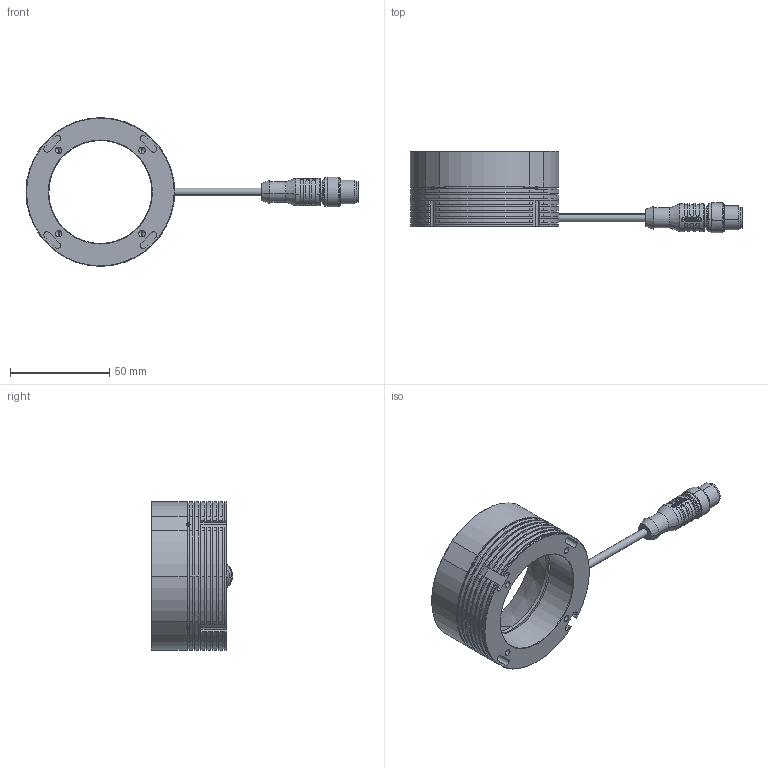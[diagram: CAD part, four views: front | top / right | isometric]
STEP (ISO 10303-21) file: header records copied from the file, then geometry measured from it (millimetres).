
FILE_DESCRIPTION (( 'STEP AP214' ), '1' );
FILE_NAME ('RM-75.STEP', '2017-05-26T15:07:02', ( '' ), ( '' ), 'SwSTEP 2.0', 'SolidWorks 2017', '' );
FILE_SCHEMA (( 'AUTOMOTIVE_DESIGN' ));
Length unit declared in the file: millimetre
Products named in the file (10): RM-75 Housing; PCB-00573-01; CABLE; PCB-00572-01; PRT-00572-02-R2; Assem1^RM-75 Full; 92605A501_NONMARRING FLAT POINT SET SCREW_92605A501; RM-75; M12-M; LUXEON_3535L_LINE_20160314
Assembly tree (85 placements, depth 3):
  RM-75
    PRT-00572-02-R2
    Assem1^RM-75 Full
      PCB-00573-01
      LUXEON_3535L_LINE_20160314  x72
    CABLE
    92605A501_NONMARRING FLAT POINT SET SCREW_92605A501  x4
    PCB-00572-01  x3
    RM-75 Housing
    M12-M
Bounding box: 167.45 x 41 x 75 mm (x, y, z)
Volume: 60182.2 mm3; surface area: 56534.5 mm2
Topology: 86 solids, 86 shells, 5795 faces, 14914 edges, 9374 vertices
Faces by surface type: plane 3612, cylinder 1742, bspline 311, cone 101, torus 29
Entity records: 84273 total; most frequent: CARTESIAN_POINT 52251, ORIENTED_EDGE 5672, DIRECTION 4446, EDGE_CURVE 2836, VERTEX_POINT 1850, AXIS2_PLACEMENT_3D 1537, LINE 1372, VECTOR 1372
